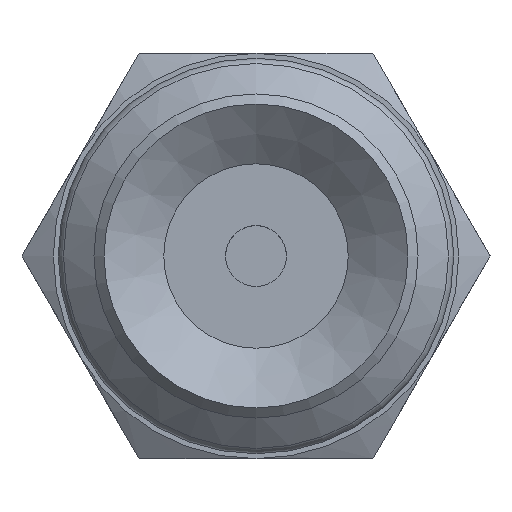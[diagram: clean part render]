
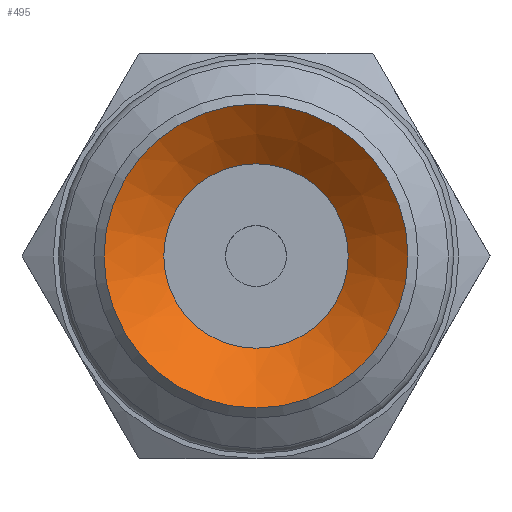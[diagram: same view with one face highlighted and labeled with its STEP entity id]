
A CAD part, front view. The second image highlights one B-rep face of the part: STEP entity #495.
In plain terms, the highlighted conical face has half-angle 52 degrees and reference radius 1.82 mm.
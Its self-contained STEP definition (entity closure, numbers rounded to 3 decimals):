
#495=ADVANCED_FACE('',(#746,#747),#748,.F.);
#746=FACE_BOUND('',#1022,.T.);
#747=FACE_OUTER_BOUND('',#1023,.T.);
#748=CONICAL_SURFACE('',#1024,1.82,0.908);
#1022=EDGE_LOOP('',(#1713));
#1023=EDGE_LOOP('',(#1714));
#1024=AXIS2_PLACEMENT_3D('',#1715,#1716,#1717);
#1713=ORIENTED_EDGE('',*,*,#1962,.F.);
#1714=ORIENTED_EDGE('',*,*,#1963,.T.);
#1715=CARTESIAN_POINT('',(0.0,6.889,0.0));
#1716=DIRECTION('',(-0.0,-1.0,0.));
#1717=DIRECTION('',(0.0,0.,-1.0));
#1962=EDGE_CURVE('',#2280,#2280,#2281,.T.);
#1963=EDGE_CURVE('',#2282,#2282,#2283,.T.);
#2280=VERTEX_POINT('',#2980);
#2281=CIRCLE('',#2981,1.82);
#2282=VERTEX_POINT('',#2982);
#2283=CIRCLE('',#2983,3.0);
#2980=CARTESIAN_POINT('',(0.0,6.889,-1.82));
#2981=AXIS2_PLACEMENT_3D('',#3274,#3275,#3276);
#2982=CARTESIAN_POINT('',(0.0,5.967,-3.0));
#2983=AXIS2_PLACEMENT_3D('',#3277,#3278,#3279);
#3274=CARTESIAN_POINT('',(0.0,6.889,0.0));
#3275=DIRECTION('',(0.0,-1.0,0.));
#3276=DIRECTION('',(0.0,0.,-1.0));
#3277=CARTESIAN_POINT('',(0.0,5.967,0.0));
#3278=DIRECTION('',(0.0,-1.0,0.));
#3279=DIRECTION('',(0.0,0.,-1.0));
